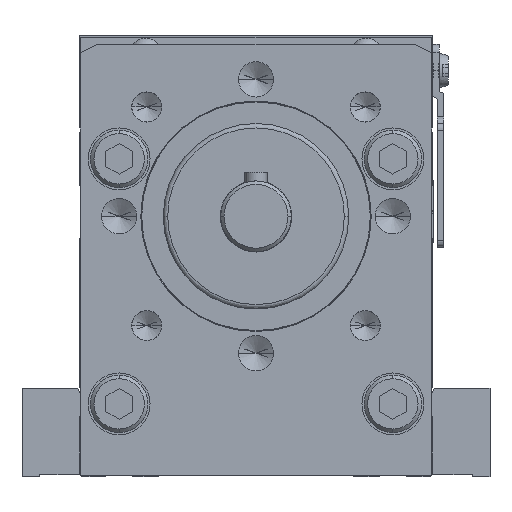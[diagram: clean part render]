
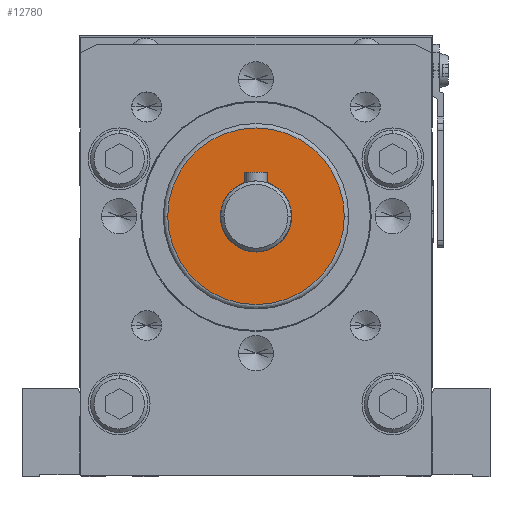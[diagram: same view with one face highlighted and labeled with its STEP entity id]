
A CAD part, front view. The second image highlights one B-rep face of the part: STEP entity #12780.
In plain terms, the highlighted planar face has unit normal (0, -1, 0) as drawn and (0, 0, 1) by its records, which use the part's own axes.
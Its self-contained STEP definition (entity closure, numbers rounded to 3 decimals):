
#12290=CARTESIAN_POINT('',(1630.05,135.16,
395.));
#12300=VERTEX_POINT('',#12290);
#12390=CARTESIAN_POINT('',(1590.05,135.16,
395.));
#12400=VERTEX_POINT('',#12390);
#12430=CARTESIAN_POINT('',(1610.05,135.16,
395.));
#12440=DIRECTION('',(0.,0.,-1.));
#12450=DIRECTION('',(-1.,0.,0.));
#12460=AXIS2_PLACEMENT_3D('',#12430,#12440,#12450);
#12470=CIRCLE('',#12460,20.);
#12480=EDGE_CURVE('',#12300,#12400,#12470,.T.);
#12530=CARTESIAN_POINT('',(1601.384,132.673,
395.));
#12540=DIRECTION('',(0.,0.,-1.));
#12550=DIRECTION('',(-1.,0.,0.));
#12560=AXIS2_PLACEMENT_3D('',#12530,#12540,#12550);
#12570=PLANE('',#12560);
#12580=EDGE_CURVE('',#12400,#12300,#12470,.T.);
#12590=ORIENTED_EDGE('',*,*,#12580,.F.);
#12600=ORIENTED_EDGE('',*,*,#12480,.F.);
#12610=EDGE_LOOP('',(#12600,#12590));
#12620=FACE_OUTER_BOUND('',#12610,.T.);
#12630=CARTESIAN_POINT('',(1610.05,135.16,
395.));
#12640=DIRECTION('',(0.,0.,-1.));
#12650=DIRECTION('',(-1.,0.,0.));
#12660=AXIS2_PLACEMENT_3D('',#12630,#12640,#12650);
#12670=CIRCLE('',#12660,8.1);
#12680=CARTESIAN_POINT('',(1601.95,135.16,
395.));
#12690=VERTEX_POINT('',#12680);
#12700=CARTESIAN_POINT('',(1618.15,135.16,
395.));
#12710=VERTEX_POINT('',#12700);
#12720=EDGE_CURVE('',#12690,#12710,#12670,.T.);
#12730=ORIENTED_EDGE('',*,*,#12720,.T.);
#12740=EDGE_CURVE('',#12710,#12690,#12670,.T.);
#12750=ORIENTED_EDGE('',*,*,#12740,.T.);
#12760=EDGE_LOOP('',(#12750,#12730));
#12770=FACE_BOUND('',#12760,.T.);
#12780=ADVANCED_FACE('',(#12620,#12770),#12570,.F.);
